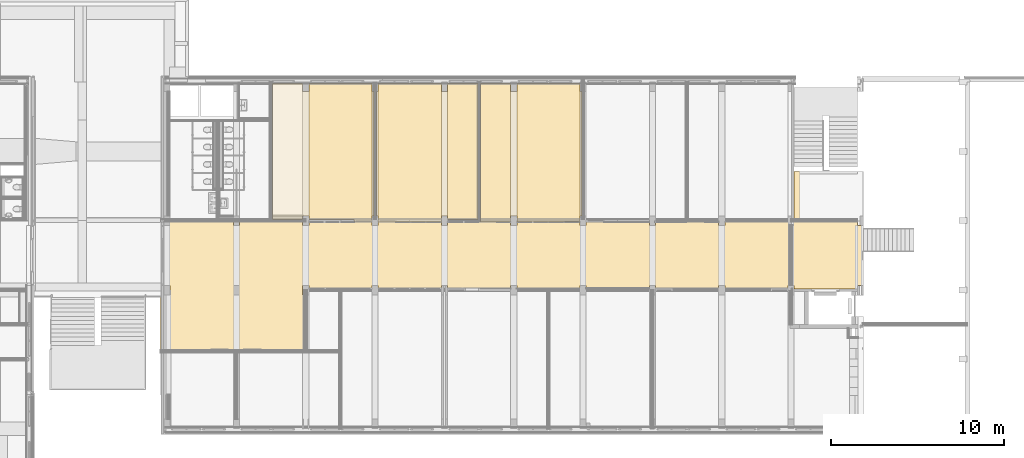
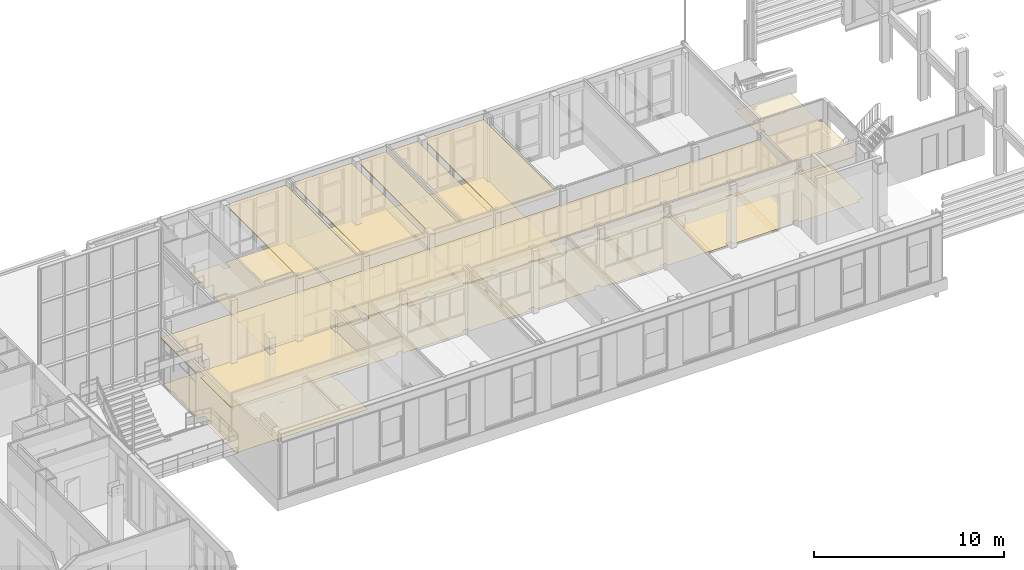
# One storey, part 83 of 94: 9 coverings.
"""IFC2X3 building model written with IfcOpenShell, lengths in millimetres."""

from ifc_helpers import new_model, entity, si_unit, converted_unit, derived_unit, money_unit, direction, frame, origin_with_axes, place, context, subcontext, project, spatial, faceted_brep, material, type_object, element, save


model = new_model("IFC2X3")

# Units and contexts
model_context = context("Model", 3, precision=0.01, world=origin_with_axes(), true_north=direction((0.0, 1.0)))
body_context = subcontext(model_context, "Body", "Model", "MODEL_VIEW")
ifc_project = project(units=[si_unit("LENGTHUNIT", "METRE", prefix="MILLI"), si_unit("AREAUNIT", "SQUARE_METRE"), si_unit("VOLUMEUNIT", "CUBIC_METRE"), converted_unit("PLANEANGLEUNIT", "DEGREE", entity("IfcPlaneAngleMeasure", 0.0174532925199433), si_unit("PLANEANGLEUNIT", "RADIAN"), dimensions=[0, 0, 0, 0, 0, 0, 0]), money_unit("EUR"), converted_unit("TIMEUNIT", "Year", entity("IfcTimeMeasure", 31557600.0), si_unit("TIMEUNIT", "SECOND"), dimensions=[0, 0, 1, 0, 0, 0, 0]), si_unit("MASSUNIT", "GRAM", prefix="KILO"), si_unit("THERMODYNAMICTEMPERATUREUNIT", "DEGREE_CELSIUS"), si_unit("LUMINOUSINTENSITYUNIT", "LUMEN"), si_unit("ENERGYUNIT", "JOULE", prefix="MEGA"), derived_unit("THERMALCONDUCTANCEUNIT", [(si_unit("POWERUNIT", "WATT"), 1), (si_unit("LENGTHUNIT", "METRE"), -1), (si_unit("THERMODYNAMICTEMPERATUREUNIT", "KELVIN"), -1)]), derived_unit("SPECIFICHEATCAPACITYUNIT", [(si_unit("ENERGYUNIT", "JOULE"), 1), (si_unit("MASSUNIT", "GRAM", prefix="KILO"), -1), (si_unit("THERMODYNAMICTEMPERATUREUNIT", "KELVIN"), -1)]), derived_unit("MASSDENSITYUNIT", [(si_unit("MASSUNIT", "GRAM", prefix="KILO"), 1), (si_unit("VOLUMEUNIT", "CUBIC_METRE"), -1)])], contexts=[model_context])

# Site, building, storey
site_placement = place(None, origin_with_axes())
site = spatial("IfcSite", under=ifc_project, at=site_placement, Name="<site naam>", CompositionType="ELEMENT")
building_placement = place(site_placement, origin_with_axes())
building = spatial("IfcBuilding", under=site, at=building_placement, Name="<Naam gebouw>", CompositionType="ELEMENT")
storey_placement = place(building_placement, frame((0.0, 0.0, 4250.0), z_axis=(0.0, 0.0, 1.0), x_axis=(1.0, 0.0, 0.0)))
storey = spatial("IfcBuildingStorey", under=building, at=storey_placement, Name="01 1e verdieping", CompositionType="ELEMENT", Elevation=4250.0)

# Coverings
ifc_material_1 = material(Name="systeemplafond 600*600 kleur wit")
covering_type_1 = type_object("IfcCoveringType", Name="PA-01a 40", PredefinedType="CEILING")
covering_1_placement = place(storey_placement, frame((24174.99995729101, 19455.39879544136, 3700.0), z_axis=(0.0, 0.0, 1.0), x_axis=(1.0, 0.0, 0.0)))
element("IfcCovering", 1, at=covering_1_placement, inside=storey, type_object=covering_type_1, material=ifc_material_1, Name="45_Vloer_PA-01a", PredefinedType="CEILING", context=body_context, shape_type="Brep", body=[
    faceted_brep([(0.0, -7375.103480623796, 40.00000000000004), (0.0, -7375.103480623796, 0.0), (3649.99994024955, -7375.103480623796, 0.0), (3649.99994024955, -7375.103480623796, 40.00000000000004), (0.0, 433.9999335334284, 40.00000000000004), (0.0, 433.9999335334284, 0.0), (3649.99994024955, 433.9999335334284, 0.0), (3649.99994024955, 433.9999335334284, 40.00000000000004)], [[[0, 1, 2, 3]], [[4, 5, 1, 0]], [[5, 6, 2, 1]], [[3, 2, 6, 7]], [[4, 0, 3, 7]], [[7, 6, 5, 4]]]),
])
covering_2_placement = place(storey_placement, frame((20174.99989625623, 19889.39872897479, 3700.0), z_axis=(0.0, 0.0, 1.0), x_axis=(1.0, 0.0, 0.0)))
element("IfcCovering", 2, at=covering_2_placement, inside=storey, type_object=covering_type_1, material=ifc_material_1, Name="45_Vloer_PA-01a", PredefinedType="CEILING", context=body_context, shape_type="Brep", body=[
    faceted_brep([(0.0, 0.0, 40.00000000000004), (0.0, 0.0, 0.0), (0.0, -7809.103373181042, 0.0), (0.0, -7809.103373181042, 40.00000000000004), (3649.999992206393, 0.0, 40.00000000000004), (3649.999992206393, 0.0, 0.0), (3649.999992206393, -7809.103373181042, 0.0), (3649.999992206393, -7809.103373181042, 40.00000000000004)], [[[0, 1, 2, 3]], [[4, 5, 1, 0]], [[1, 5, 6, 2]], [[3, 2, 6, 7]], [[4, 0, 3, 7]], [[7, 6, 5, 4]]]),
])
covering_3_placement = place(storey_placement, frame((28174.99975277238, 12280.39877516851, 3700.0), z_axis=(0.0, 0.0, 1.0), x_axis=(1.0, 0.0, 0.0)))
element("IfcCovering", 3, at=covering_3_placement, inside=storey, type_object=covering_type_1, material=ifc_material_1, Name="45_Vloer_PA-01a", PredefinedType="CEILING", context=body_context, shape_type="Brep", body=[
    faceted_brep([(0.0, -200.1034603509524, 40.00000000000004), (0.0, -200.1034603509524, 0.0), (3650.000194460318, -200.1034603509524, 0.0), (3650.000194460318, -200.1034603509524, 40.00000000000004), (0.0, 7175.000030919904, 40.00000000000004), (0.0, 7175.000030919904, 0.0), (0.01972915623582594, 7175.000030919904, 0.0), (0.01972915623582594, 7608.999953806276, 0.0), (1750.003039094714, 7608.999953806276, 0.0), (1750.003039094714, -192.9155121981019, 0.0), (1900.135012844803, -192.9155121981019, 0.0), (1900.135012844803, 7608.999953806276, 0.0), (3650.000194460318, 7608.999953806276, 0.0), (3650.000194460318, 7608.999953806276, 40.00000000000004), (1900.135012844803, 7608.999953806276, 40.00000000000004), (1900.135012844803, -192.9155121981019, 40.00000000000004), (1750.003039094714, -192.9155121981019, 40.00000000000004), (1750.003039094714, 7608.999953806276, 40.00000000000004), (0.01972915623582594, 7608.999953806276, 40.00000000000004), (0.01972915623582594, 7175.000030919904, 40.00000000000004)], [[[0, 1, 2, 3]], [[4, 5, 1, 0]], [[1, 5, 6, 7, 8, 9, 10, 11, 12, 2]], [[3, 2, 12, 13]], [[4, 0, 3, 13, 14, 15, 16, 17, 18, 19]], [[19, 6, 5, 4]], [[18, 7, 6, 19]], [[17, 8, 7, 18]], [[16, 9, 8, 17]], [[15, 10, 9, 16]], [[14, 11, 10, 15]], [[13, 12, 11, 14]]]),
])
covering_4_placement = place(storey_placement, frame((32174.99988295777, 12280.39877516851, 3700.0), z_axis=(0.0, 0.0, 1.0), x_axis=(1.0, 0.0, 0.0)))
element("IfcCovering", 4, at=covering_4_placement, inside=storey, type_object=covering_type_1, material=ifc_material_1, Name="45_Vloer_PA-01a", PredefinedType="CEILING", context=body_context, shape_type="Brep", body=[
    faceted_brep([(0.0, -200.1034603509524, 40.00000000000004), (0.0, -200.1034603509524, 0.0), (3649.99994784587, -200.1034603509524, 0.0), (3649.99994784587, -200.1034603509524, 40.00000000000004), (0.0, 7608.999953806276, 40.00000000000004), (0.0, 7608.999953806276, 0.0), (3649.99994784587, 7608.999953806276, 0.0), (3649.99994784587, 7608.999953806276, 40.00000000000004)], [[[0, 1, 2, 3]], [[4, 5, 1, 0]], [[1, 5, 6, 2]], [[3, 2, 6, 7]], [[0, 3, 7, 4]], [[7, 6, 5, 4]]]),
])
ifc_material_2 = material(Name="systeemplafond 600*600")
covering_type_2 = type_object("IfcCoveringType", Name="PA-01c 40", PredefinedType="CEILING")
covering_5_placement = place(storey_placement, frame((48175.00000000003, 11925.00000000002, 3000.0), z_axis=(0.0, 0.0, 1.0), x_axis=(1.0, 0.0, 0.0)))
element("IfcCovering", 5, at=covering_5_placement, inside=storey, type_object=covering_type_2, material=ifc_material_2, Name="45_Vloer_PA-01c", PredefinedType="CEILING", context=body_context, shape_type="Brep", body=[
    faceted_brep([(-36550.52948411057, 0.0, 40.00000000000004), (0.0, 0.0, 40.00000000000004), (0.0, 0.0, 0.0), (-36550.52948411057, 0.0, 0.0), (3339.470515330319, 2924.99999999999, 40.00000000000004), (0.0, 2924.99999999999, 40.00000000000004), (-36550.52948411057, -3650.000000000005, 40.00000000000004), (-36310.52948466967, -3650.000000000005, 40.00000000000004), (-36310.52948466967, -4200.000000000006, 40.00000000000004), (-36550.52948411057, -4200.000000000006, 40.00000000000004), (-36550.52948411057, -7400.000032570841, 40.00000000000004), (-28250.0, -7400.000032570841, 40.00000000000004), (-28250.0, -4200.000000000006, 40.00000000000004), (-28350.0, -4200.000000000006, 40.00000000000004), (-28350.0, -3650.000000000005, 40.00000000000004), (-28000.0, -3650.000000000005, 40.00000000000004), (-28000.0, -3850.564048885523, 40.00000000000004), (-24350.0, -3850.564048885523, 40.00000000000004), (-24350.0, -3650.000000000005, 40.00000000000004), (-24000.0, -3650.000000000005, 40.00000000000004), (-24000.0, -3850.564048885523, 40.00000000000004), (-20350.0, -3850.564048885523, 40.00000000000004), (-20350.0, -3650.000000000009, 40.00000000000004), (-20000.0, -3650.000000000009, 40.00000000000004), (-20000.0, -3850.564048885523, 40.00000000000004), (-16349.99999999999, -3850.564048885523, 40.00000000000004), (-16349.99999999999, -3650.000000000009, 40.00000000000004), (-16000.0, -3650.000000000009, 40.00000000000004), (-16000.0, -3850.564048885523, 40.00000000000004), (-12349.99999999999, -3850.564048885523, 40.00000000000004), (-12349.99999999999, -3650.000000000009, 40.00000000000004), (-12000.0, -3650.000000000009, 40.00000000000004), (-12000.0, -3850.564048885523, 40.00000000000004), (-8349.999999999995, -3850.564048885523, 40.00000000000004), (-8349.999999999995, -3650.000000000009, 40.00000000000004), (-8000.0, -3650.000000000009, 40.00000000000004), (-8000.0, -3850.564048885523, 40.00000000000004), (-4349.999999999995, -3850.564048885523, 40.00000000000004), (-4349.999999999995, -3650.000000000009, 40.00000000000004), (-4000.0, -3650.000000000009, 40.00000000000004), (-4000.0, -3850.564048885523, 40.00000000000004), (-349.9999999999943, -3850.564048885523, 40.00000000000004), (-349.9999999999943, -3650.0, 40.00000000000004), (0.0, -3650.0, 40.00000000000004), (0.0, -3870.00000146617, 40.00000000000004), (3339.470515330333, -3870.000001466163, 40.00000000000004), (3339.470515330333, -3649.999999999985, 40.00000000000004), (3538.829072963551, -3649.999999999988, 40.00000000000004), (3538.829072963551, -200.0000000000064, 40.00000000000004), (3339.470515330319, -200.0000000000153, 40.00000000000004), (-32000.0, -3650.000000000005, 40.00000000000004), (-32000.0, -4200.000000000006, 40.00000000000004), (-32350.0, -4200.000000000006, 40.00000000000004), (-32350.0, -3650.000000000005, 40.00000000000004), (0.0, 2924.99999999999, 0.0), (-36550.52948411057, -3650.000000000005, 0.0), (3339.470515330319, 2924.99999999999, 0.0), (3339.470515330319, -200.0000000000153, 0.0), (3538.829072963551, -200.0000000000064, 0.0), (3538.829072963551, -3649.999999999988, 0.0), (3339.470515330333, -3649.999999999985, 0.0), (3339.470515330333, -3870.000001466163, 0.0), (0.0, -3870.00000146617, 0.0), (0.0, -3650.0, 0.0), (-349.9999999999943, -3650.0, 0.0), (-349.9999999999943, -3850.564048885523, 0.0), (-4000.0, -3850.564048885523, 0.0), (-4000.0, -3650.000000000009, 0.0), (-4349.999999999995, -3650.000000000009, 0.0), (-4349.999999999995, -3850.564048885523, 0.0), (-8000.0, -3850.564048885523, 0.0), (-8000.0, -3650.000000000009, 0.0), (-8349.999999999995, -3650.000000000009, 0.0), (-8349.999999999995, -3850.564048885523, 0.0), (-12000.0, -3850.564048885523, 0.0), (-12000.0, -3650.000000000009, 0.0), (-12349.99999999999, -3650.000000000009, 0.0), (-12349.99999999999, -3850.564048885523, 0.0), (-16000.0, -3850.564048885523, 0.0), (-16000.0, -3650.000000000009, 0.0), (-16349.99999999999, -3650.000000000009, 0.0), (-16349.99999999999, -3850.564048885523, 0.0), (-20000.0, -3850.564048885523, 0.0), (-20000.0, -3650.000000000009, 0.0), (-20350.0, -3650.000000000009, 0.0), (-20350.0, -3850.564048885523, 0.0), (-24000.0, -3850.564048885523, 0.0), (-24000.0, -3650.000000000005, 0.0), (-24350.0, -3650.000000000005, 0.0), (-24350.0, -3850.564048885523, 0.0), (-28000.0, -3850.564048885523, 0.0), (-28000.0, -3650.000000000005, 0.0), (-28350.0, -3650.000000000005, 0.0), (-28350.0, -4200.000000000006, 0.0), (-28250.0, -4200.000000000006, 0.0), (-28250.0, -7400.000032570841, 0.0), (-36550.52948411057, -7400.000032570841, 0.0), (-36550.52948411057, -4200.000000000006, 0.0), (-36310.52948466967, -4200.000000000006, 0.0), (-36310.52948466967, -3650.000000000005, 0.0), (-32000.0, -3650.000000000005, 0.0), (-32350.0, -3650.000000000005, 0.0), (-32350.0, -4200.000000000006, 0.0), (-32000.0, -4200.000000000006, 0.0)], [[[0, 1, 2, 3]], [[4, 5, 1, 0, 6, 7, 8, 9, 10, 11, 12, 13, 14, 15, 16, 17, 18, 19, 20, 21, 22, 23, 24, 25, 26, 27, 28, 29, 30, 31, 32, 33, 34, 35, 36, 37, 38, 39, 40, 41, 42, 43, 44, 45, 46, 47, 48, 49], [50, 51, 52, 53]], [[1, 5, 54, 2]], [[55, 3, 2, 54, 56, 57, 58, 59, 60, 61, 62, 63, 64, 65, 66, 67, 68, 69, 70, 71, 72, 73, 74, 75, 76, 77, 78, 79, 80, 81, 82, 83, 84, 85, 86, 87, 88, 89, 90, 91, 92, 93, 94, 95, 96, 97, 98, 99], [100, 101, 102, 103]], [[6, 0, 3, 55]], [[5, 4, 56, 54]], [[7, 6, 55, 99]], [[8, 7, 99, 98]], [[9, 8, 98, 97]], [[10, 9, 97, 96]], [[11, 10, 96, 95]], [[12, 11, 95, 94]], [[13, 12, 94, 93]], [[14, 13, 93, 92]], [[15, 14, 92, 91]], [[16, 15, 91, 90]], [[17, 16, 90, 89]], [[18, 17, 89, 88]], [[19, 18, 88, 87]], [[20, 19, 87, 86]], [[21, 20, 86, 85]], [[22, 21, 85, 84]], [[23, 22, 84, 83]], [[24, 23, 83, 82]], [[25, 24, 82, 81]], [[26, 25, 81, 80]], [[27, 26, 80, 79]], [[28, 27, 79, 78]], [[29, 28, 78, 77]], [[30, 29, 77, 76]], [[31, 30, 76, 75]], [[32, 31, 75, 74]], [[33, 32, 74, 73]], [[34, 33, 73, 72]], [[35, 34, 72, 71]], [[36, 35, 71, 70]], [[37, 36, 70, 69]], [[38, 37, 69, 68]], [[39, 38, 68, 67]], [[40, 39, 67, 66]], [[41, 40, 66, 65]], [[42, 41, 65, 64]], [[43, 42, 64, 63]], [[44, 43, 63, 62]], [[45, 44, 62, 61]], [[46, 45, 61, 60]], [[47, 46, 60, 59]], [[48, 47, 59, 58]], [[49, 48, 58, 57]], [[4, 49, 57, 56]], [[51, 50, 100, 103]], [[52, 51, 103, 102]], [[53, 52, 102, 101]], [[50, 53, 101, 100]]]),
])
ifc_material_3 = material(Name="Vinyl type 01b")
covering_type_3 = type_object("IfcCoveringType", Name="VA-01b 3", PredefinedType="CEILING")
covering_6_placement = place(storey_placement, frame((11782.34245042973, 8275.000000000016, 0.0), z_axis=(0.0, 0.0, 1.0), x_axis=(1.0, 0.0, 0.0)))
element("IfcCovering", 6, at=covering_6_placement, inside=storey, type_object=covering_type_3, material=ifc_material_3, Name="43_Vloer_VA-01b", PredefinedType="CEILING", context=body_context, shape_type="Brep", body=[
    faceted_brep([(0.0, 0.0, 3.000000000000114), (0.0, 0.0, 0.0), (392.6575495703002, 0.0, 0.0), (392.6575495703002, 0.0, 3.000000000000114), (0.0, 3647.091497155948, 3.000000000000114), (0.0, 3647.091497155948, 0.0), (4042.657549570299, 3647.091497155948, 0.0), (4042.657549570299, 3449.999999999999, 0.0), (4392.6575495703, 3449.999999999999, 0.0), (4392.6575495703, 3647.091497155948, 0.0), (8042.657549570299, 3647.091497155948, 0.0), (8042.657549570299, 3449.999999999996, 0.0), (8392.6575495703, 3449.999999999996, 0.0), (8392.6575495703, 3650.010642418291, 0.0), (12042.6575495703, 3650.010642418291, 0.0), (12042.6575495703, 3449.999999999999, 0.0), (12392.6575495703, 3449.999999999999, 0.0), (12392.6575495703, 3650.141982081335, 0.0), (16042.6575495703, 3650.141982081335, 0.0), (16042.6575495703, 3449.999999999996, 0.0), (16392.6575495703, 3449.999999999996, 0.0), (16392.6575495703, 3650.010642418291, 0.0), (20042.65754957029, 3650.010642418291, 0.0), (20042.65754957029, 3449.999999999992, 0.0), (20392.6575495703, 3449.999999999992, 0.0), (20392.6575495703, 3647.091497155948, 0.0), (24042.65754957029, 3647.091497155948, 0.0), (24042.65754957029, 3449.999999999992, 0.0), (24392.6575495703, 3449.999999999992, 0.0), (24392.6575495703, 3647.091497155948, 0.0), (28042.65754957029, 3647.091497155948, 0.0), (28042.65754957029, 3449.999999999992, 0.0), (28392.6575495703, 3449.999999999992, 0.0), (28392.6575495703, 3647.091497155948, 0.0), (32042.65754957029, 3647.091497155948, 0.0), (32042.65754957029, 3449.999999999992, 0.0), (32392.6575495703, 3449.999999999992, 0.0), (32392.6575495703, 3724.999999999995, 0.0), (40042.65754957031, 3724.999999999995, 0.0), (40042.65754957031, 3450.000000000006, 0.0), (40392.05754957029, 3450.000000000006, 0.0), (40392.05754957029, 0.0, 0.0), (40042.65754957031, 0.0, 0.0), (40042.65754957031, -220.0000014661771, 0.0), (36392.6575495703, -220.0000014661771, 0.0), (36392.6575495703, 0.0, 0.0), (36042.65754957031, 0.0, 0.0), (36042.65754957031, -205.3402999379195, 0.0), (32392.6575495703, -205.3402999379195, 0.0), (32392.6575495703, 0.0, 0.0), (32042.65754957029, 0.0, 0.0), (32042.65754957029, -205.3402999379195, 0.0), (28392.6575495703, -205.3402999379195, 0.0), (28392.6575495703, 0.0, 0.0), (28042.65754957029, 0.0, 0.0), (28042.65754957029, -205.3402999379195, 0.0), (24392.6575495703, -205.3402999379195, 0.0), (24392.6575495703, 0.0, 0.0), (24042.65754957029, 0.0, 0.0), (24042.65754957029, -205.3402999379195, 0.0), (20392.6575495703, -205.3402999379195, 0.0), (20392.6575495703, 0.0, 0.0), (20042.65754957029, 0.0, 0.0), (20042.65754957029, -205.3402999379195, 0.0), (16392.6575495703, -205.3402999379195, 0.0), (16392.6575495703, 0.0, 0.0), (16042.6575495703, 0.0, 0.0), (16042.6575495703, -205.3402999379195, 0.0), (12392.6575495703, -205.3402999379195, 0.0), (12392.6575495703, 0.0, 0.0), (12042.6575495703, 0.0, 0.0), (12042.6575495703, -205.3402999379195, 0.0), (8392.6575495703, -205.3402999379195, 0.0), (8392.6575495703, 0.0, 0.0), (8042.657549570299, 0.0, 0.0), (8042.657549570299, -550.0000000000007, 0.0), (8142.6575495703, -550.0000000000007, 0.0), (8142.6575495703, -3750.000032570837, 0.0), (152.6575046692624, -3750.000032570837, 0.0), (152.6575046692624, -550.0000000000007, 0.0), (392.6575495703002, -550.0000000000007, 0.0), (392.6575495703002, -550.0000000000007, 3.000000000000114), (152.6575046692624, -550.0000000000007, 3.000000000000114), (152.6575046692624, -3750.000032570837, 3.000000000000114), (8142.6575495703, -3750.000032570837, 3.000000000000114), (8142.6575495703, -550.0000000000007, 3.000000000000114), (8042.657549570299, -550.0000000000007, 3.000000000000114), (8042.657549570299, 0.0, 3.000000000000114), (8392.6575495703, 0.0, 3.000000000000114), (8392.6575495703, -205.3402999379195, 3.000000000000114), (12042.6575495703, -205.3402999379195, 3.000000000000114), (12042.6575495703, 0.0, 3.000000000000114), (12392.6575495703, 0.0, 3.000000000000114), (12392.6575495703, -205.3402999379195, 3.000000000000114), (16042.6575495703, -205.3402999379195, 3.000000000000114), (16042.6575495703, 0.0, 3.000000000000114), (16392.6575495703, 0.0, 3.000000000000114), (16392.6575495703, -205.3402999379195, 3.000000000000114), (20042.65754957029, -205.3402999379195, 3.000000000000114), (20042.65754957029, 0.0, 3.000000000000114), (20392.6575495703, 0.0, 3.000000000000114), (20392.6575495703, -205.3402999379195, 3.000000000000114), (24042.65754957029, -205.3402999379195, 3.000000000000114), (24042.65754957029, 0.0, 3.000000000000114), (24392.6575495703, 0.0, 3.000000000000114), (24392.6575495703, -205.3402999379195, 3.000000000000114), (28042.65754957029, -205.3402999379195, 3.000000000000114), (28042.65754957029, 0.0, 3.000000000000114), (28392.6575495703, 0.0, 3.000000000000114), (28392.6575495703, -205.3402999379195, 3.000000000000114), (32042.65754957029, -205.3402999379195, 3.000000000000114), (32042.65754957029, 0.0, 3.000000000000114), (32392.6575495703, 0.0, 3.000000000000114), (32392.6575495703, -205.3402999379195, 3.000000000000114), (36042.65754957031, -205.3402999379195, 3.000000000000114), (36042.65754957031, 0.0, 3.000000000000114), (36392.6575495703, 0.0, 3.000000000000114), (36392.6575495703, -220.0000014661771, 3.000000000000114), (40042.65754957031, -220.0000014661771, 3.000000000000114), (40042.65754957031, 0.0, 3.000000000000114), (40392.05754957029, 0.0, 3.000000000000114), (40392.05754957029, 3450.000000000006, 3.000000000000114), (40042.65754957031, 3450.000000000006, 3.000000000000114), (40042.65754957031, 3724.999999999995, 3.000000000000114), (32392.6575495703, 3724.999999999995, 3.000000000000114), (32392.6575495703, 3449.999999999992, 3.000000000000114), (32042.65754957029, 3449.999999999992, 3.000000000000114), (32042.65754957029, 3647.091497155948, 3.000000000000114), (28392.6575495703, 3647.091497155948, 3.000000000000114), (28392.6575495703, 3449.999999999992, 3.000000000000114), (28042.65754957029, 3449.999999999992, 3.000000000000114), (28042.65754957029, 3647.091497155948, 3.000000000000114), (24392.6575495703, 3647.091497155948, 3.000000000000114), (24392.6575495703, 3449.999999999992, 3.000000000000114), (24042.65754957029, 3449.999999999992, 3.000000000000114), (24042.65754957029, 3647.091497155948, 3.000000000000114), (20392.6575495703, 3647.091497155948, 3.000000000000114), (20392.6575495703, 3449.999999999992, 3.000000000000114), (20042.65754957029, 3449.999999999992, 3.000000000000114), (20042.65754957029, 3650.010642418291, 3.000000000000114), (16392.6575495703, 3650.010642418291, 3.000000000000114), (16392.6575495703, 3449.999999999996, 3.000000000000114), (16042.6575495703, 3449.999999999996, 3.000000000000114), (16042.6575495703, 3650.141982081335, 3.000000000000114), (12392.6575495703, 3650.141982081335, 3.000000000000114), (12392.6575495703, 3449.999999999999, 3.000000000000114), (12042.6575495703, 3449.999999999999, 3.000000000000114), (12042.6575495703, 3650.010642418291, 3.000000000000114), (8392.6575495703, 3650.010642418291, 3.000000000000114), (8392.6575495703, 3449.999999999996, 3.000000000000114), (8042.657549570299, 3449.999999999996, 3.000000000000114), (8042.657549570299, 3647.091497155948, 3.000000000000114), (4392.6575495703, 3647.091497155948, 3.000000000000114), (4392.6575495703, 3449.999999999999, 3.000000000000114), (4042.657549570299, 3449.999999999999, 3.000000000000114), (4042.657549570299, 3647.091497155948, 3.000000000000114)], [[[0, 1, 2, 3]], [[4, 5, 1, 0]], [[2, 1, 5, 6, 7, 8, 9, 10, 11, 12, 13, 14, 15, 16, 17, 18, 19, 20, 21, 22, 23, 24, 25, 26, 27, 28, 29, 30, 31, 32, 33, 34, 35, 36, 37, 38, 39, 40, 41, 42, 43, 44, 45, 46, 47, 48, 49, 50, 51, 52, 53, 54, 55, 56, 57, 58, 59, 60, 61, 62, 63, 64, 65, 66, 67, 68, 69, 70, 71, 72, 73, 74, 75, 76, 77, 78, 79, 80]], [[3, 2, 80, 81]], [[4, 0, 3, 81, 82, 83, 84, 85, 86, 87, 88, 89, 90, 91, 92, 93, 94, 95, 96, 97, 98, 99, 100, 101, 102, 103, 104, 105, 106, 107, 108, 109, 110, 111, 112, 113, 114, 115, 116, 117, 118, 119, 120, 121, 122, 123, 124, 125, 126, 127, 128, 129, 130, 131, 132, 133, 134, 135, 136, 137, 138, 139, 140, 141, 142, 143, 144, 145, 146, 147, 148, 149, 150, 151, 152, 153, 154, 155]], [[155, 6, 5, 4]], [[154, 7, 6, 155]], [[153, 8, 7, 154]], [[152, 9, 8, 153]], [[151, 10, 9, 152]], [[150, 11, 10, 151]], [[149, 12, 11, 150]], [[148, 13, 12, 149]], [[147, 14, 13, 148]], [[146, 15, 14, 147]], [[145, 16, 15, 146]], [[144, 17, 16, 145]], [[143, 18, 17, 144]], [[142, 19, 18, 143]], [[141, 20, 19, 142]], [[140, 21, 20, 141]], [[139, 22, 21, 140]], [[138, 23, 22, 139]], [[137, 24, 23, 138]], [[136, 25, 24, 137]], [[135, 26, 25, 136]], [[134, 27, 26, 135]], [[133, 28, 27, 134]], [[132, 29, 28, 133]], [[131, 30, 29, 132]], [[130, 31, 30, 131]], [[129, 32, 31, 130]], [[128, 33, 32, 129]], [[127, 34, 33, 128]], [[126, 35, 34, 127]], [[125, 36, 35, 126]], [[124, 37, 36, 125]], [[123, 38, 37, 124]], [[122, 39, 38, 123]], [[121, 40, 39, 122]], [[120, 41, 40, 121]], [[119, 42, 41, 120]], [[118, 43, 42, 119]], [[117, 44, 43, 118]], [[116, 45, 44, 117]], [[115, 46, 45, 116]], [[114, 47, 46, 115]], [[113, 48, 47, 114]], [[112, 49, 48, 113]], [[111, 50, 49, 112]], [[110, 51, 50, 111]], [[109, 52, 51, 110]], [[108, 53, 52, 109]], [[107, 54, 53, 108]], [[106, 55, 54, 107]], [[105, 56, 55, 106]], [[104, 57, 56, 105]], [[103, 58, 57, 104]], [[102, 59, 58, 103]], [[101, 60, 59, 102]], [[100, 61, 60, 101]], [[99, 62, 61, 100]], [[98, 63, 62, 99]], [[97, 64, 63, 98]], [[96, 65, 64, 97]], [[95, 66, 65, 96]], [[94, 67, 66, 95]], [[93, 68, 67, 94]], [[92, 69, 68, 93]], [[91, 70, 69, 92]], [[90, 71, 70, 91]], [[89, 72, 71, 90]], [[88, 73, 72, 89]], [[87, 74, 73, 88]], [[86, 75, 74, 87]], [[85, 76, 75, 86]], [[84, 77, 76, 85]], [[83, 78, 77, 84]], [[82, 79, 78, 83]], [[81, 80, 79, 82]]]),
])
ifc_material_4 = material(Name="Vinyl type 01a")
covering_type_4 = type_object("IfcCoveringType", Name="VA-01a 3", PredefinedType="CEILING")
covering_7_placement = place(storey_placement, frame((18074.93840291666, 12074.89663354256, 19.99999999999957), z_axis=(0.0, 0.0, 1.0), x_axis=(1.0, 0.0, 0.0)))
element("IfcCovering", 7, at=covering_7_placement, inside=storey, type_object=covering_type_4, material=ifc_material_4, Name="43_Vloer_VA-01a", PredefinedType="CEILING", context=body_context, shape_type="Brep", body=[
    faceted_brep([(0.0, 0.0, 3.000000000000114), (0.0, 0.0, 0.0), (1750.061613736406, 0.0, 0.0), (1750.061613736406, 0.0, 3.000000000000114), (0.0, 7850.103453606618, 3.000000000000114), (0.0, 7850.103453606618, 0.0), (1750.061613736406, 7850.103453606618, 0.0), (1750.061613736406, 7375.103337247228, 0.0), (2100.061542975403, 7375.103337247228, 0.0), (2100.061542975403, 7850.103453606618, 0.0), (5750.061535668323, 7850.103453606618, 0.0), (5750.061535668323, 7375.103337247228, 0.0), (5850.061566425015, 7375.103337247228, 0.0), (5850.061566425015, 200.1034200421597, 0.0), (5750.061535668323, 200.1034200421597, 0.0), (5750.061535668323, -131.791639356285, 0.0), (4716.06153566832, -131.791639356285, 0.0), (4716.06153566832, 0.0, 0.0), (2100.061542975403, 0.0, 0.0), (2100.061542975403, 200.1034200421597, 0.0), (1750.061613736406, 200.1034200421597, 0.0), (1750.061613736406, 200.1034200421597, 3.000000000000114), (2100.061542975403, 200.1034200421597, 3.000000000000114), (2100.061542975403, 0.0, 3.000000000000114), (4716.06153566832, 0.0, 3.000000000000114), (4716.06153566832, -131.791639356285, 3.000000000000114), (5750.061535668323, -131.791639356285, 3.000000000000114), (5750.061535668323, 200.1034200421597, 3.000000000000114), (5850.061566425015, 200.1034200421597, 3.000000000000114), (5850.061566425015, 7375.103337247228, 3.000000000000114), (5750.061535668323, 7375.103337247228, 3.000000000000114), (5750.061535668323, 7850.103453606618, 3.000000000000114), (2100.061542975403, 7850.103453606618, 3.000000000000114), (2100.061542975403, 7375.103337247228, 3.000000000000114), (1750.061613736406, 7375.103337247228, 3.000000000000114), (1750.061613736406, 7850.103453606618, 3.000000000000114)], [[[0, 1, 2, 3]], [[4, 5, 1, 0]], [[2, 1, 5, 6, 7, 8, 9, 10, 11, 12, 13, 14, 15, 16, 17, 18, 19, 20]], [[3, 2, 20, 21]], [[4, 0, 3, 21, 22, 23, 24, 25, 26, 27, 28, 29, 30, 31, 32, 33, 34, 35]], [[35, 6, 5, 4]], [[34, 7, 6, 35]], [[33, 8, 7, 34]], [[32, 9, 8, 33]], [[31, 10, 9, 32]], [[30, 11, 10, 31]], [[29, 12, 11, 30]], [[28, 13, 12, 29]], [[27, 14, 13, 28]], [[26, 15, 14, 27]], [[25, 16, 15, 26]], [[24, 17, 16, 25]], [[23, 18, 17, 24]], [[22, 19, 18, 23]], [[21, 20, 19, 22]]]),
])
covering_8_placement = place(storey_placement, frame((24075.00000000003, 12274.99999983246, 0.0), z_axis=(0.0, 0.0, 1.0), x_axis=(1.0, 0.0, 0.0)))
element("IfcCovering", 8, at=covering_8_placement, inside=storey, type_object=covering_type_4, material=ifc_material_4, Name="43_Vloer_VA-01a", PredefinedType="CEILING", context=body_context, shape_type="Brep", body=[
    faceted_brep([(0.0, 0.0, 3.000000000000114), (0.0, 0.0, 0.0), (99.9999999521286, 0.0, 0.0), (99.9999999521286, 0.0, 3.000000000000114), (0.0, 7174.999996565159, 3.000000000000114), (0.0, 7174.999996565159, 0.0), (99.9999999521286, 7174.999996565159, 0.0), (99.9999999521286, 7649.999996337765, 0.0), (3749.999998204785, 7649.999996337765, 0.0), (3749.999998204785, 7174.999996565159, 0.0), (4100.019429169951, 7174.999996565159, 0.0), (4100.019429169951, 7649.999996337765, 0.0), (5850.137445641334, 7649.999996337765, 0.0), (5850.137445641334, -196.6107112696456, 0.0), (4099.999998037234, -196.6107112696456, 0.0), (4099.999998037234, 0.0, 0.0), (3749.999998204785, 0.0, 0.0), (3749.999998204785, -349.9999998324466, 0.0), (99.9999999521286, -349.9999998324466, 0.0), (99.9999999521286, -349.9999998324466, 3.000000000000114), (3749.999998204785, -349.9999998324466, 3.000000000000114), (3749.999998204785, 0.0, 3.000000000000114), (4099.999998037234, 0.0, 3.000000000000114), (4099.999998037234, -196.6107112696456, 3.000000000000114), (5850.137445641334, -196.6107112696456, 3.000000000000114), (5850.137445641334, 7649.999996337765, 3.000000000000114), (4100.019429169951, 7649.999996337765, 3.000000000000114), (4100.019429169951, 7174.999996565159, 3.000000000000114), (3749.999998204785, 7174.999996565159, 3.000000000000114), (3749.999998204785, 7649.999996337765, 3.000000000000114), (99.9999999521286, 7649.999996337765, 3.000000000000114), (99.9999999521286, 7174.999996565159, 3.000000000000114)], [[[0, 1, 2, 3]], [[4, 5, 1, 0]], [[2, 1, 5, 6, 7, 8, 9, 10, 11, 12, 13, 14, 15, 16, 17, 18]], [[3, 2, 18, 19]], [[4, 0, 3, 19, 20, 21, 22, 23, 24, 25, 26, 27, 28, 29, 30, 31]], [[31, 6, 5, 4]], [[30, 7, 6, 31]], [[29, 8, 7, 30]], [[28, 9, 8, 29]], [[27, 10, 9, 28]], [[26, 11, 10, 27]], [[25, 12, 11, 26]], [[24, 13, 12, 25]], [[23, 14, 13, 24]], [[22, 15, 14, 23]], [[21, 16, 15, 22]], [[20, 17, 16, 21]], [[19, 18, 17, 20]]]),
])
covering_9_placement = place(storey_placement, frame((30075.1348683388, 11925.00000000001, 0.0), z_axis=(0.0, 0.0, 1.0), x_axis=(1.0, 0.0, 0.0)))
element("IfcCovering", 9, at=covering_9_placement, inside=storey, type_object=covering_type_4, material=ifc_material_4, Name="43_Vloer_VA-01a", PredefinedType="CEILING", context=body_context, shape_type="Brep", body=[
    faceted_brep([(0.0, 0.0, 3.000000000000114), (0.0, 0.0, 0.0), (1749.865196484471, 0.0, 0.0), (1749.865196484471, 0.0, 3.000000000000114), (0.0, 7999.999893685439, 3.000000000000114), (0.0, 7999.999893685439, 0.0), (1749.865196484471, 7999.999893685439, 0.0), (1749.865196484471, 7525.000164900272, 0.0), (2099.865271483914, 7525.000164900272, 0.0), (2099.865271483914, 7999.999893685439, 0.0), (5749.865273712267, 7999.999893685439, 0.0), (5749.865273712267, 7525.000164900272, 0.0), (5849.864973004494, 7525.000164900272, 0.0), (5849.864973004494, 350.0000515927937, 0.0), (5749.865273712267, 350.0000515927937, 0.0), (5749.865273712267, 35.41010074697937, 0.0), (4801.083016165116, 35.41010074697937, 0.0), (4801.083016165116, 0.0, 0.0), (2099.865271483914, 0.0, 0.0), (2099.865271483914, 350.0000515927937, 0.0), (1749.865196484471, 350.0000515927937, 0.0), (1749.865196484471, 350.0000515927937, 3.000000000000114), (2099.865271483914, 350.0000515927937, 3.000000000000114), (2099.865271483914, 0.0, 3.000000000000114), (4801.083016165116, 0.0, 3.000000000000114), (4801.083016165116, 35.41010074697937, 3.000000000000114), (5749.865273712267, 35.41010074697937, 3.000000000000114), (5749.865273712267, 350.0000515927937, 3.000000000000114), (5849.864973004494, 350.0000515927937, 3.000000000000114), (5849.864973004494, 7525.000164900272, 3.000000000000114), (5749.865273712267, 7525.000164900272, 3.000000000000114), (5749.865273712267, 7999.999893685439, 3.000000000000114), (2099.865271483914, 7999.999893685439, 3.000000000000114), (2099.865271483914, 7525.000164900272, 3.000000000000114), (1749.865196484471, 7525.000164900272, 3.000000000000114), (1749.865196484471, 7999.999893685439, 3.000000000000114)], [[[0, 1, 2, 3]], [[4, 5, 1, 0]], [[2, 1, 5, 6, 7, 8, 9, 10, 11, 12, 13, 14, 15, 16, 17, 18, 19, 20]], [[3, 2, 20, 21]], [[4, 0, 3, 21, 22, 23, 24, 25, 26, 27, 28, 29, 30, 31, 32, 33, 34, 35]], [[35, 6, 5, 4]], [[34, 7, 6, 35]], [[33, 8, 7, 34]], [[32, 9, 8, 33]], [[31, 10, 9, 32]], [[30, 11, 10, 31]], [[29, 12, 11, 30]], [[28, 13, 12, 29]], [[27, 14, 13, 28]], [[26, 15, 14, 27]], [[25, 16, 15, 26]], [[24, 17, 16, 25]], [[23, 18, 17, 24]], [[22, 19, 18, 23]], [[21, 20, 19, 22]]]),
])

save(model, "model.ifc")
